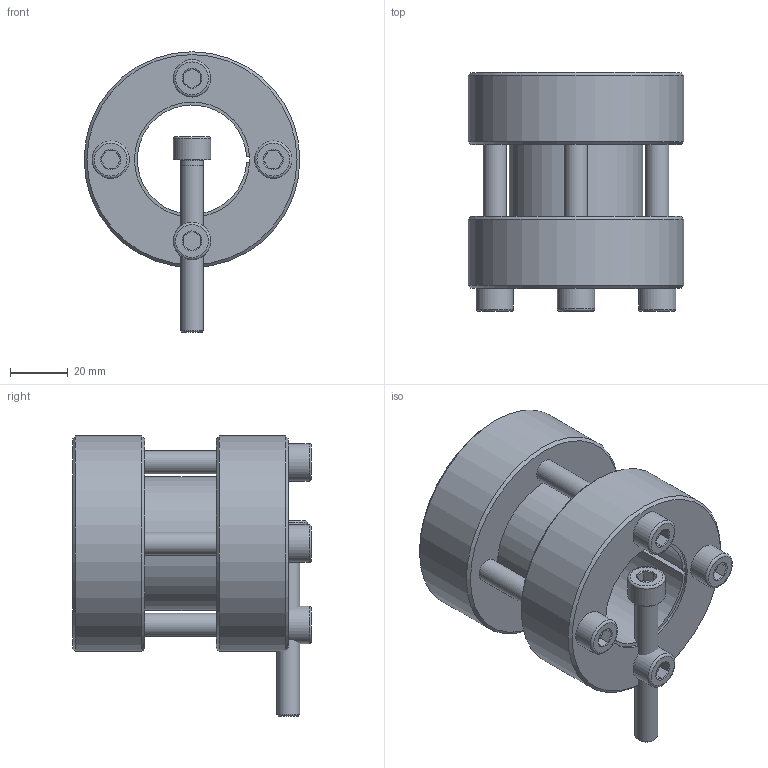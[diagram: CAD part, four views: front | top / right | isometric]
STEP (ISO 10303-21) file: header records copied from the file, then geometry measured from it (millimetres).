
FILE_DESCRIPTION( ( 'Unknown' ), '1' );
FILE_NAME( 'C:/Dokumente und Einstellungen/Sven/Desktop/homepage/cad - homepage/KBS95/KBS 95 - 38 x 75.stp', 'Unknown', ( 'Unknown' ), ( 'Unknown' ), 'XStep 1.0', 'Unknown', ' ' );
FILE_SCHEMA( ( 'automotive_design' ) );
Length unit declared in the file: millimetre
Products named in the file (3): Assem1; KBS 95 - 38 x 75; ISO EN DIN 4762 M8x60
Bounding box: 75 x 83 x 97.5 mm (x, y, z)
Volume: 353794.2 mm3; surface area: 91853.1 mm2
Topology: 7 solids, 7 shells, 181 faces, 379 edges, 232 vertices
Faces by surface type: plane 80, cone 47, cylinder 44, torus 10
Full cylindrical faces by diameter (mm): 7 x5, 8 x26, 13 x5, 75 x4
Entity records: 1726 total; most frequent: CARTESIAN_POINT 295, DIRECTION 252, ORIENTED_EDGE 190, AXIS2_PLACEMENT_3D 108, EDGE_LOOP 98, EDGE_CURVE 95, VERTEX_POINT 71, FACE_OUTER_BOUND 69
